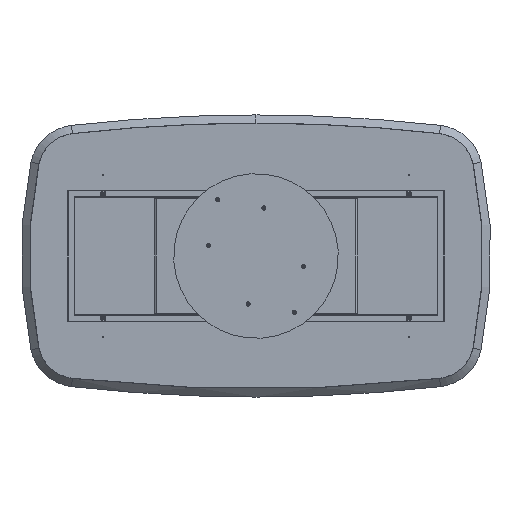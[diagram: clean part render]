
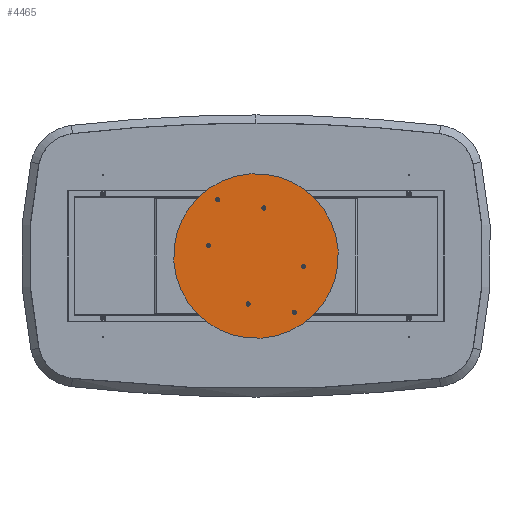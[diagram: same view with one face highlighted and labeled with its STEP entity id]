
A CAD part, front view. The second image highlights one B-rep face of the part: STEP entity #4465.
In plain terms, the highlighted planar face has unit normal (0, -1, 0).
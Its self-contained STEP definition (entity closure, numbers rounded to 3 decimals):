
#468 = ORIENTED_EDGE ( 'NONE', *, *, #21775, .F. ) ;
#677 = CIRCLE ( 'NONE', #11697, 8.65 ) ;
#786 = EDGE_LOOP ( 'NONE', ( #5352, #7049 ) ) ;
#922 = CARTESIAN_POINT ( 'NONE',  ( 150., 0., 142.5 ) ) ;
#997 = CARTESIAN_POINT ( 'NONE',  ( -150., 0., -151.15 ) ) ;
#1216 = AXIS2_PLACEMENT_3D ( 'NONE', #20832, #6404, #12095 ) ;
#1251 = CIRCLE ( 'NONE', #3903, 8.65 ) ;
#1287 = VERTEX_POINT ( 'NONE', #2578 ) ;
#1498 = CARTESIAN_POINT ( 'NONE',  ( 150., 0., -142.5 ) ) ;
#1521 = AXIS2_PLACEMENT_3D ( 'NONE', #21226, #15892, #19449 ) ;
#1682 = VERTEX_POINT ( 'NONE', #14912 ) ;
#2202 = EDGE_LOOP ( 'NONE', ( #20624, #17923 ) ) ;
#2289 = EDGE_CURVE ( 'NONE', #5059, #1287, #8076, .T. ) ;
#2356 = FACE_OUTER_BOUND ( 'NONE', #2202, .T. ) ;
#2369 = VERTEX_POINT ( 'NONE', #19258 ) ;
#2578 = CARTESIAN_POINT ( 'NONE',  ( 150., 0., 151.15 ) ) ;
#2623 = CARTESIAN_POINT ( 'NONE',  ( 150., 0., -133.85 ) ) ;
#2852 = ORIENTED_EDGE ( 'NONE', *, *, #5975, .F. ) ;
#3050 = CIRCLE ( 'NONE', #1521, 350. ) ;
#3124 = CARTESIAN_POINT ( 'NONE',  ( -150., 0., -142.5 ) ) ;
#3174 = DIRECTION ( 'NONE',  ( 0., 0., -1. ) ) ;
#3235 = AXIS2_PLACEMENT_3D ( 'NONE', #16856, #9747, #4499 ) ;
#3477 = CIRCLE ( 'NONE', #22823, 8.65 ) ;
#3565 = AXIS2_PLACEMENT_3D ( 'NONE', #14970, #19090, #22193 ) ;
#3903 = AXIS2_PLACEMENT_3D ( 'NONE', #18253, #11162, #5226 ) ;
#3999 = VERTEX_POINT ( 'NONE', #2623 ) ;
#4141 = EDGE_LOOP ( 'NONE', ( #9440, #10889 ) ) ;
#4330 = CARTESIAN_POINT ( 'NONE',  ( 150., 0., 142.5 ) ) ;
#4465 = ADVANCED_FACE ( 'NONE', ( #9856, #17076, #11524, #18745, #11399, #22536, #2356 ), #9624, .F. ) ;
#4499 = DIRECTION ( 'NONE',  ( 0., 0., 1. ) ) ;
#4553 = CIRCLE ( 'NONE', #13021, 8.65 ) ;
#4907 = CARTESIAN_POINT ( 'NONE',  ( 150., 0., -151.15 ) ) ;
#4908 = VERTEX_POINT ( 'NONE', #4907 ) ;
#5005 = AXIS2_PLACEMENT_3D ( 'NONE', #17367, #10368, #13824 ) ;
#5059 = VERTEX_POINT ( 'NONE', #10796 ) ;
#5095 = DIRECTION ( 'NONE',  ( 0., 0., -1. ) ) ;
#5168 = AXIS2_PLACEMENT_3D ( 'NONE', #7050, #7395, #18182 ) ;
#5173 = VERTEX_POINT ( 'NONE', #18738 ) ;
#5198 = ORIENTED_EDGE ( 'NONE', *, *, #6130, .F. ) ;
#5226 = DIRECTION ( 'NONE',  ( 0., 0., -1. ) ) ;
#5250 = CARTESIAN_POINT ( 'NONE',  ( -290., 0., -8.65 ) ) ;
#5352 = ORIENTED_EDGE ( 'NONE', *, *, #17048, .F. ) ;
#5706 = AXIS2_PLACEMENT_3D ( 'NONE', #3124, #12282, #23162 ) ;
#5788 = ORIENTED_EDGE ( 'NONE', *, *, #17248, .F. ) ;
#5975 = EDGE_CURVE ( 'NONE', #2369, #19521, #20580, .T. ) ;
#6130 = EDGE_CURVE ( 'NONE', #10585, #1682, #1251, .T. ) ;
#6396 = EDGE_LOOP ( 'NONE', ( #8029, #468 ) ) ;
#6404 = DIRECTION ( 'NONE',  ( 0., -1., 0. ) ) ;
#6433 = EDGE_CURVE ( 'NONE', #4908, #3999, #4553, .T. ) ;
#6496 = CIRCLE ( 'NONE', #17103, 8.65 ) ;
#7049 = ORIENTED_EDGE ( 'NONE', *, *, #19543, .F. ) ;
#7050 = CARTESIAN_POINT ( 'NONE',  ( 0., 0., 0. ) ) ;
#7236 = CARTESIAN_POINT ( 'NONE',  ( 0., 0., 350. ) ) ;
#7395 = DIRECTION ( 'NONE',  ( 0., 1., 0. ) ) ;
#7747 = EDGE_LOOP ( 'NONE', ( #22824, #5788 ) ) ;
#7853 = DIRECTION ( 'NONE',  ( 0., 0., -1. ) ) ;
#8029 = ORIENTED_EDGE ( 'NONE', *, *, #21110, .F. ) ;
#8076 = CIRCLE ( 'NONE', #10729, 8.65 ) ;
#8302 = ORIENTED_EDGE ( 'NONE', *, *, #14771, .F. ) ;
#8378 = CARTESIAN_POINT ( 'NONE',  ( -290., 0., 8.65 ) ) ;
#8724 = CARTESIAN_POINT ( 'NONE',  ( -150., 0., 142.5 ) ) ;
#9440 = ORIENTED_EDGE ( 'NONE', *, *, #2289, .F. ) ;
#9624 = PLANE ( 'NONE',  #3235 ) ;
#9693 = EDGE_LOOP ( 'NONE', ( #18939, #5198 ) ) ;
#9747 = DIRECTION ( 'NONE',  ( 0., 1., 0. ) ) ;
#9856 = FACE_BOUND ( 'NONE', #6396, .T. ) ;
#10039 = DIRECTION ( 'NONE',  ( 0., -1., 0. ) ) ;
#10368 = DIRECTION ( 'NONE',  ( 0., -1., 0. ) ) ;
#10585 = VERTEX_POINT ( 'NONE', #17741 ) ;
#10700 = CIRCLE ( 'NONE', #1216, 8.65 ) ;
#10729 = AXIS2_PLACEMENT_3D ( 'NONE', #4330, #10039, #22134 ) ;
#10796 = CARTESIAN_POINT ( 'NONE',  ( 150., 0., 133.85 ) ) ;
#10889 = ORIENTED_EDGE ( 'NONE', *, *, #19016, .F. ) ;
#11067 = VERTEX_POINT ( 'NONE', #5250 ) ;
#11162 = DIRECTION ( 'NONE',  ( 0., -1., 0. ) ) ;
#11399 = FACE_BOUND ( 'NONE', #4141, .T. ) ;
#11522 = EDGE_CURVE ( 'NONE', #5173, #12918, #3050, .T. ) ;
#11524 = FACE_BOUND ( 'NONE', #7747, .T. ) ;
#11576 = CIRCLE ( 'NONE', #3565, 8.65 ) ;
#11623 = DIRECTION ( 'NONE',  ( 0., -1., 0. ) ) ;
#11697 = AXIS2_PLACEMENT_3D ( 'NONE', #922, #11623, #20482 ) ;
#11963 = EDGE_CURVE ( 'NONE', #1682, #10585, #6496, .T. ) ;
#12055 = VERTEX_POINT ( 'NONE', #997 ) ;
#12095 = DIRECTION ( 'NONE',  ( 0., 0., -1. ) ) ;
#12282 = DIRECTION ( 'NONE',  ( 0., -1., 0. ) ) ;
#12343 = DIRECTION ( 'NONE',  ( 0., 0., -1. ) ) ;
#12918 = VERTEX_POINT ( 'NONE', #7236 ) ;
#13021 = AXIS2_PLACEMENT_3D ( 'NONE', #17432, #19422, #3174 ) ;
#13070 = CARTESIAN_POINT ( 'NONE',  ( -150., 0., -133.85 ) ) ;
#13824 = DIRECTION ( 'NONE',  ( 0., 0., -1. ) ) ;
#14771 = EDGE_CURVE ( 'NONE', #19521, #2369, #3477, .T. ) ;
#14912 = CARTESIAN_POINT ( 'NONE',  ( 290., 0., -8.65 ) ) ;
#14970 = CARTESIAN_POINT ( 'NONE',  ( -150., 0., -142.5 ) ) ;
#15021 = CARTESIAN_POINT ( 'NONE',  ( 290., 0., 0. ) ) ;
#15383 = CARTESIAN_POINT ( 'NONE',  ( -150., 0., 133.85 ) ) ;
#15892 = DIRECTION ( 'NONE',  ( 0., 1., 0. ) ) ;
#16856 = CARTESIAN_POINT ( 'NONE',  ( 0., 0., 0. ) ) ;
#16880 = AXIS2_PLACEMENT_3D ( 'NONE', #1498, #21324, #5095 ) ;
#16932 = VERTEX_POINT ( 'NONE', #13070 ) ;
#17048 = EDGE_CURVE ( 'NONE', #12055, #16932, #11576, .T. ) ;
#17076 = FACE_BOUND ( 'NONE', #786, .T. ) ;
#17103 = AXIS2_PLACEMENT_3D ( 'NONE', #15021, #22354, #20562 ) ;
#17248 = EDGE_CURVE ( 'NONE', #3999, #4908, #22559, .T. ) ;
#17367 = CARTESIAN_POINT ( 'NONE',  ( -290., 0., 0. ) ) ;
#17432 = CARTESIAN_POINT ( 'NONE',  ( 150., 0., -142.5 ) ) ;
#17741 = CARTESIAN_POINT ( 'NONE',  ( 290., 0., 8.65 ) ) ;
#17923 = ORIENTED_EDGE ( 'NONE', *, *, #18207, .F. ) ;
#18182 = DIRECTION ( 'NONE',  ( 0., 0., 1. ) ) ;
#18207 = EDGE_CURVE ( 'NONE', #12918, #5173, #21819, .T. ) ;
#18253 = CARTESIAN_POINT ( 'NONE',  ( 290., 0., 0. ) ) ;
#18646 = CARTESIAN_POINT ( 'NONE',  ( -150., 0., 142.5 ) ) ;
#18738 = CARTESIAN_POINT ( 'NONE',  ( 0., 0., -350. ) ) ;
#18745 = FACE_BOUND ( 'NONE', #9693, .T. ) ;
#18939 = ORIENTED_EDGE ( 'NONE', *, *, #11963, .F. ) ;
#19016 = EDGE_CURVE ( 'NONE', #1287, #5059, #677, .T. ) ;
#19066 = VERTEX_POINT ( 'NONE', #8378 ) ;
#19090 = DIRECTION ( 'NONE',  ( 0., -1., 0. ) ) ;
#19258 = CARTESIAN_POINT ( 'NONE',  ( -150., 0., 151.15 ) ) ;
#19337 = CIRCLE ( 'NONE', #5706, 8.65 ) ;
#19422 = DIRECTION ( 'NONE',  ( 0., -1., 0. ) ) ;
#19449 = DIRECTION ( 'NONE',  ( 0., 0., 1. ) ) ;
#19521 = VERTEX_POINT ( 'NONE', #15383 ) ;
#19543 = EDGE_CURVE ( 'NONE', #16932, #12055, #19337, .T. ) ;
#20482 = DIRECTION ( 'NONE',  ( 0., 0., -1. ) ) ;
#20562 = DIRECTION ( 'NONE',  ( 0., 0., -1. ) ) ;
#20580 = CIRCLE ( 'NONE', #22487, 8.65 ) ;
#20624 = ORIENTED_EDGE ( 'NONE', *, *, #11522, .F. ) ;
#20832 = CARTESIAN_POINT ( 'NONE',  ( -290., 0., 0. ) ) ;
#21110 = EDGE_CURVE ( 'NONE', #11067, #19066, #22426, .T. ) ;
#21226 = CARTESIAN_POINT ( 'NONE',  ( 0., 0., 0. ) ) ;
#21324 = DIRECTION ( 'NONE',  ( 0., -1., 0. ) ) ;
#21588 = DIRECTION ( 'NONE',  ( 0., -1., 0. ) ) ;
#21775 = EDGE_CURVE ( 'NONE', #19066, #11067, #10700, .T. ) ;
#21819 = CIRCLE ( 'NONE', #5168, 350. ) ;
#22134 = DIRECTION ( 'NONE',  ( 0., 0., -1. ) ) ;
#22193 = DIRECTION ( 'NONE',  ( 0., 0., -1. ) ) ;
#22354 = DIRECTION ( 'NONE',  ( 0., -1., 0. ) ) ;
#22426 = CIRCLE ( 'NONE', #5005, 8.65 ) ;
#22487 = AXIS2_PLACEMENT_3D ( 'NONE', #18646, #22675, #7853 ) ;
#22536 = FACE_BOUND ( 'NONE', #22653, .T. ) ;
#22559 = CIRCLE ( 'NONE', #16880, 8.65 ) ;
#22653 = EDGE_LOOP ( 'NONE', ( #8302, #2852 ) ) ;
#22675 = DIRECTION ( 'NONE',  ( 0., -1., 0. ) ) ;
#22823 = AXIS2_PLACEMENT_3D ( 'NONE', #8724, #21588, #12343 ) ;
#22824 = ORIENTED_EDGE ( 'NONE', *, *, #6433, .F. ) ;
#23162 = DIRECTION ( 'NONE',  ( 0., 0., -1. ) ) ;
